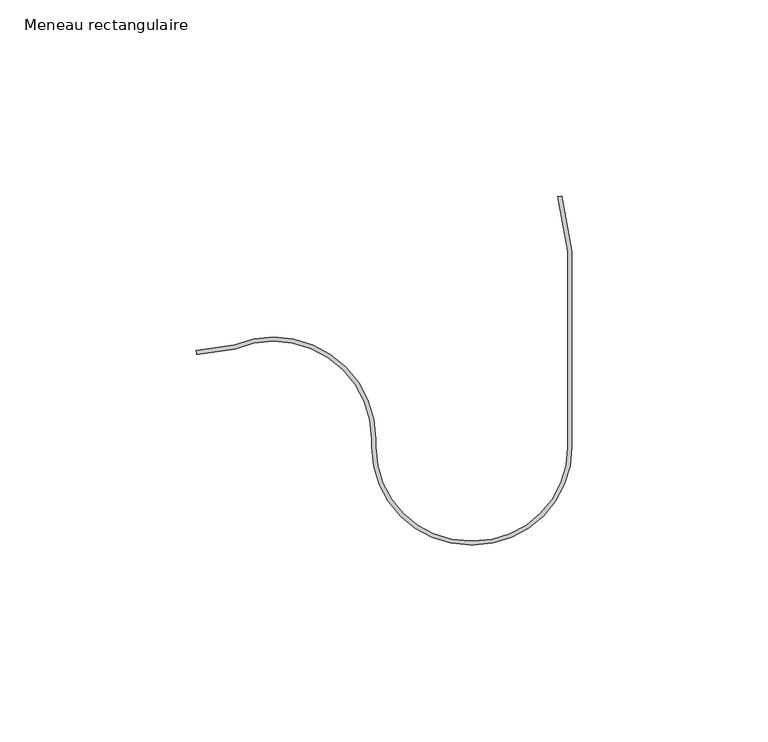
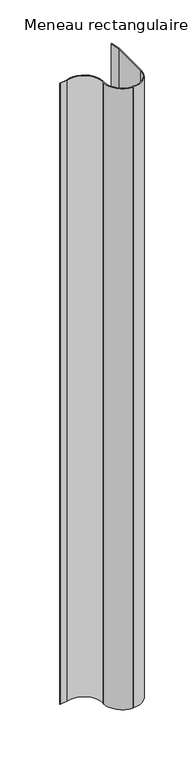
"""IFC4 building model written with IfcOpenShell, lengths in millimetres: member geometry, Meneau rectangulaire : Jonction contre mur Droite V."""

import ifcopenshell
import ifcopenshell.guid

model = None  # the IFC model being written
_history = None  # IfcOwnerHistory: only IFC2X3 demands one
_inside = {}  # id of a spatial element -> (the spatial element, [elements in it])
_under = {}  # id of a project, library or spatial element -> (it, [spatial elements below it])
_declared = {}  # id of a project -> (the project, [libraries it declares])
_typed = {}  # id of a type object -> (the type object, [elements of that type])
_made_of = {}  # id of a material, layer set ... -> (it, [elements and type objects made of it])


def new_model(schema):
    """Start an empty IFC model of exactly this schema.

    Asked for "IFC4X3", IfcOpenShell would pick the latest addendum, in which some entities
    have other attributes; the version numbers below select the first issue.
    IFC2X3 requires an IfcOwnerHistory on every rooted entity: one is made here for all.
    """
    global model, _history
    if schema == "IFC4X3":
        model = ifcopenshell.file(schema_version=(4, 3, 0, 0))
    else:
        model = ifcopenshell.file(schema=schema)
    _inside.clear()
    _under.clear()
    _declared.clear()
    _typed.clear()
    _made_of.clear()
    _history = None
    if model.schema == "IFC2X3":
        org = make("IfcOrganization", Name="unknown")
        user = make(
            "IfcPersonAndOrganization",
            ThePerson=make("IfcPerson", FamilyName="unknown"),
            TheOrganization=org,
        )
        app = make(
            "IfcApplication",
            ApplicationDeveloper=org,
            Version="unknown",
            ApplicationFullName="unknown",
            ApplicationIdentifier="unknown",
        )
        _history = make(
            "IfcOwnerHistory",
            OwningUser=user,
            OwningApplication=app,
            ChangeAction="ADDED",
            CreationDate=0,
        )
    return model


def make(cls, **values):
    """One entity of the class cls with the attributes given. An attribute that is None is left unset."""
    return model.create_entity(
        cls, **{name: value for name, value in values.items() if value is not None}
    )


def rooted(cls, **values):
    """An entity with a GlobalId (a new one), such as an element, a storey or a relation."""
    return make(cls, GlobalId=ifcopenshell.guid.new(), OwnerHistory=_history, **values)


def si_unit(unit_type, name, prefix=None):
    """IfcSIUnit, for example si_unit("LENGTHUNIT", "METRE", prefix="MILLI")."""
    return make("IfcSIUnit", UnitType=unit_type, Prefix=prefix, Name=name)


def assignment(units):
    """IfcUnitAssignment: the units of a project."""
    return None if units is None else make("IfcUnitAssignment", Units=units)


def point(xyz):
    """IfcCartesianPoint."""
    return None if xyz is None else make("IfcCartesianPoint", Coordinates=xyz)


def direction(xyz):
    """IfcDirection."""
    return None if xyz is None else make("IfcDirection", DirectionRatios=xyz)


def frame(location, z_axis=None, x_axis=None):
    """IfcAxis2Placement3D, a coordinate frame: its origin and axes. An axis left out is left unset."""
    return make(
        "IfcAxis2Placement3D",
        Location=point(location),
        Axis=direction(z_axis),
        RefDirection=direction(x_axis),
    )


def frame_2d(location, x_axis=None):
    """IfcAxis2Placement2D, a coordinate frame in the plane: its origin and x axis."""
    return make(
        "IfcAxis2Placement2D", Location=point(location), RefDirection=direction(x_axis)
    )


def origin():
    """The frame at (0, 0, 0) with its axes left unset."""
    return frame((0.0, 0.0, 0.0))


def place(relative_to, where):
    """IfcLocalPlacement: puts the frame where relative to a parent placement (None: the world)."""
    return make(
        "IfcLocalPlacement", PlacementRelTo=relative_to, RelativePlacement=where
    )


def context(
    kind, dimensions, precision=None, world=None, true_north=None, identifier=None
):
    """IfcGeometricRepresentationContext, for example the 3D "Model" context."""
    return make(
        "IfcGeometricRepresentationContext",
        ContextIdentifier=identifier,
        ContextType=kind,
        CoordinateSpaceDimension=dimensions,
        Precision=precision,
        WorldCoordinateSystem=world,
        TrueNorth=true_north,
    )


def project(units=None, contexts=None):
    """IfcProject with its units and contexts."""
    return rooted(
        "IfcProject",
        Name="project",
        RepresentationContexts=contexts,
        UnitsInContext=assignment(units),
    )


def spatial(cls, under=None, at=None, **own):
    """A site, building, storey or space (cls), placed at a placement, below another one or the project."""
    s = rooted(cls, ObjectPlacement=at, **own)
    if under is not None:
        _under.setdefault(under.id(), (under, []))[1].append(s)
    return s


def polyline(points):
    """IfcPolyline through the points."""
    return make("IfcPolyline", Points=[point(p) for p in points])


def circle_curve(where, radius):
    """IfcCircle in the frame where."""
    return make("IfcCircle", Position=where, Radius=radius)


def trimmed(basis, trim1, trim2, sense, master):
    """IfcTrimmedCurve: the piece of a basis curve between two trims."""
    return make(
        "IfcTrimmedCurve",
        BasisCurve=basis,
        Trim1=trim1,
        Trim2=trim2,
        SenseAgreement=sense,
        MasterRepresentation=master,
    )


def segment(curve, same_sense, transition):
    """IfcCompositeCurveSegment."""
    return make(
        "IfcCompositeCurveSegment",
        Transition=transition,
        SameSense=same_sense,
        ParentCurve=curve,
    )


def composite_curve(segments, self_intersect=None):
    """IfcCompositeCurve: segments joined end to end."""
    return make("IfcCompositeCurve", Segments=segments, SelfIntersect=self_intersect)


def outline(outer, holes=None, kind="AREA"):
    """IfcArbitraryClosedProfileDef: a profile drawn as a closed curve; with holes, ...WithVoids."""
    if holes is None:
        return make("IfcArbitraryClosedProfileDef", ProfileType=kind, OuterCurve=outer)
    return make(
        "IfcArbitraryProfileDefWithVoids",
        ProfileType=kind,
        OuterCurve=outer,
        InnerCurves=holes,
    )


def extrude(swept, where, along, depth):
    """IfcExtrudedAreaSolid: the profile swept, set in the frame where, extruded along a direction by depth."""
    return make(
        "IfcExtrudedAreaSolid",
        SweptArea=swept,
        Position=where,
        ExtrudedDirection=direction(along),
        Depth=depth,
    )


def shape(context_of_items, identifier, shape_type, items):
    """IfcShapeRepresentation: the items that make up one representation, for example the "Body"."""
    return make(
        "IfcShapeRepresentation",
        ContextOfItems=context_of_items,
        RepresentationIdentifier=identifier,
        RepresentationType=shape_type,
        Items=items,
    )


def source(mapping_origin, context_of_items, identifier, shape_type, items):
    """IfcRepresentationMap: a shape defined once, which mapped items show again and again."""
    return make(
        "IfcRepresentationMap",
        MappingOrigin=mapping_origin,
        MappedRepresentation=shape(context_of_items, identifier, shape_type, items),
    )


def transform(
    local_origin,
    x_axis=None,
    y_axis=None,
    z_axis=None,
    scale=None,
    scale2=None,
    scale3=None,
    uniform=True,
):
    """IfcCartesianTransformationOperator3D, or its non-uniform kind. x_axis, y_axis, z_axis: its Axis1, 2, 3."""
    if uniform:
        return make(
            "IfcCartesianTransformationOperator3D",
            Axis1=direction(x_axis),
            Axis2=direction(y_axis),
            LocalOrigin=point(local_origin),
            Scale=scale,
            Axis3=direction(z_axis),
        )
    return make(
        "IfcCartesianTransformationOperator3DnonUniform",
        Axis1=direction(x_axis),
        Axis2=direction(y_axis),
        LocalOrigin=point(local_origin),
        Scale=scale,
        Axis3=direction(z_axis),
        Scale2=scale2,
        Scale3=scale3,
    )


def mapped(mapping_source, mapping_target):
    """IfcMappedItem: shows the shape of a source again, moved by a transform."""
    return make(
        "IfcMappedItem", MappingSource=mapping_source, MappingTarget=mapping_target
    )


def made_of(thing, what):
    """Note that an element or type object is made of a material, layer set ...; save() writes the relation."""
    if what is not None:
        _made_of.setdefault(what.id(), (what, []))[1].append(thing)
    return thing


def element(
    cls,
    number,
    at=None,
    inside=None,
    cuts=None,
    type_object=None,
    material=None,
    context=None,
    identifier="Body",
    shape_type=None,
    held_by="IfcProductDefinitionShape",
    body=None,
    shapes=None,
    **own,
):
    """One element of the class cls, such as IfcWall. Its Tag is "e" and its number.

    at: its placement. inside: the storey or other place that contains it. cuts: it is an
    opening in that element (IfcRelVoidsElement). A single representation is given by context,
    identifier, shape_type and body (its items); several are given by shapes. held_by: the class
    of the entity that holds the representations. save() writes the other relations.
    """
    e = rooted(cls, Tag="e%d" % number, ObjectPlacement=at, **own)
    if body is not None:
        shapes = [shape(context, identifier, shape_type, body)]
    if shapes is not None:
        e.Representation = make(held_by, Representations=shapes)
    if inside is not None:
        _inside.setdefault(inside.id(), (inside, []))[1].append(e)
    if cuts is not None:
        rooted(
            "IfcRelVoidsElement", RelatingBuildingElement=cuts, RelatedOpeningElement=e
        )
    if type_object is not None:
        _typed.setdefault(type_object.id(), (type_object, []))[1].append(e)
    return made_of(e, material)


def aggregate(whole, parts):
    """IfcRelAggregates: a whole, such as a stair, and the parts it consists of."""
    return rooted("IfcRelAggregates", RelatingObject=whole, RelatedObjects=parts)


def save(model, path):
    """Write the relations noted so far, then the file.

    IfcRelAggregates (storeys below a building ...), IfcRelContainedInSpatialStructure (elements
    in a storey), IfcRelDefinesByType, IfcRelAssociatesMaterial and IfcRelDeclares: one each for
    every whole, place, type object, material and project.
    """
    for whole, parts in _under.values():
        aggregate(whole, parts)
    for where, things in _inside.values():
        rooted(
            "IfcRelContainedInSpatialStructure",
            RelatedElements=things,
            RelatingStructure=where,
        )
    for kind, things in _typed.values():
        rooted("IfcRelDefinesByType", RelatedObjects=things, RelatingType=kind)
    for what, things in _made_of.values():
        rooted("IfcRelAssociatesMaterial", RelatedObjects=things, RelatingMaterial=what)
    for by, libraries in _declared.values():
        rooted("IfcRelDeclares", RelatingContext=by, RelatedDefinitions=libraries)
    model.write(path)


def meneau_rectangulaire_491e6442(model_context):
    return source(origin(), model_context, "Body", "SweptSolid", [
        extrude(outline(composite_curve([segment(polyline([(-1.0, 26.3569132), (-3.6043568, 40.2231847), (-2.6384309, 40.4046045), (0.0, 26.3569132), (0.0, -23.6430868)]), True, "CONTINUOUS"), segment(trimmed(circle_curve(frame_2d((-25.0, -23.6430868)), 25.0), [point((0.0, -23.6430868))], [point((-25.0, -48.6430868))], False, "CARTESIAN"), True, "CONTINUOUS"), segment(polyline([(-25.0, -48.6430868), (-26.0, -48.6430868)]), True, "CONTINUOUS"), segment(trimmed(circle_curve(frame_2d((-26.0, -23.6430868)), 25.0), [point((-26.0, -48.6430868))], [point((-51.0, -23.6430868))], False, "CARTESIAN"), True, "CONTINUOUS"), segment(polyline([(-51.0, -23.6430868), (-51.0, -21.6218737)]), True, "CONTINUOUS"), segment(trimmed(circle_curve(frame_2d((-76.0, -21.6218737)), 25.0), [point((-51.0, -21.6218737))], [point((-85.7659612, 1.391731))], True, "CARTESIAN"), True, "CONTINUOUS"), segment(polyline([(-85.7659612, 1.391731), (-95.6686418, 0.0), (-95.8078149, 0.9902681), (-86.0341553, 2.3638663)]), True, "CONTINUOUS"), segment(trimmed(circle_curve(frame_2d((-76.0, -21.6218737)), 26.0), [point((-86.0341553, 2.3638663))], [point((-50.0, -21.6218737))], False, "CARTESIAN"), True, "CONTINUOUS"), segment(polyline([(-50.0, -21.6218737), (-50.0, -23.6430868)]), True, "CONTINUOUS"), segment(trimmed(circle_curve(frame_2d((-26.0, -23.6430868)), 24.0), [point((-50.0, -23.6430868))], [point((-26.0, -47.6430868))], True, "CARTESIAN"), True, "CONTINUOUS"), segment(polyline([(-26.0, -47.6430868), (-25.0, -47.6430868)]), True, "CONTINUOUS"), segment(trimmed(circle_curve(frame_2d((-25.0, -23.6430868)), 24.0), [point((-25.0, -47.6430868))], [point((-1.0, -23.6430868))], True, "CARTESIAN"), True, "CONTINUOUS"), segment(polyline([(-1.0, -23.6430868), (-1.0, 26.3569132)]), True, "CONTINUOUS")], self_intersect=False)), frame((0.0, 0.0, -885.6666667), z_axis=(0.0, 0.0, 1.0), x_axis=(1.0, 0.0, 0.0)), (0.0, 0.0, 1.0), 885.6666667),
    ])


if __name__ == "__main__":
    model = new_model("IFC4")
    model_context = context("Model", 3, world=origin())
    ifc_project = project(units=[si_unit("LENGTHUNIT", "METRE", prefix="MILLI")], contexts=[model_context])
    site = spatial("IfcSite", under=ifc_project)
    building = spatial("IfcBuilding", under=site)
    placement = place(None, origin())
    meneau_rectangulaire_shape = meneau_rectangulaire_491e6442(model_context)
    element("IfcMember", 1, ObjectType="Meneau rectangulaire : Jonction contre mur Droite V", at=placement, inside=building, context=model_context, shape_type="MappedRepresentation", body=[
        mapped(meneau_rectangulaire_shape, transform((0.0, 0.0, 0.0), x_axis=(1.0, 0.0, 0.0), y_axis=(0.0, 1.0, 0.0), z_axis=(0.0, 0.0, 1.0))),
    ])
    save(model, "model.ifc")
